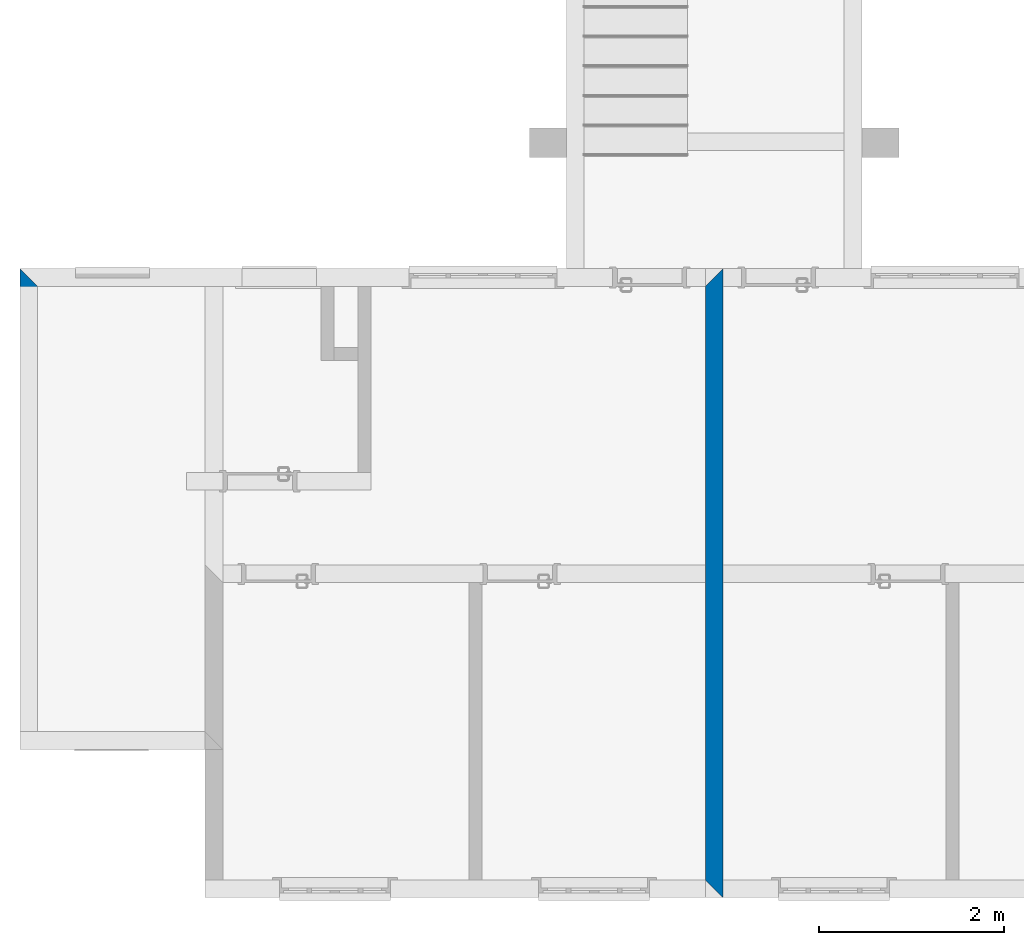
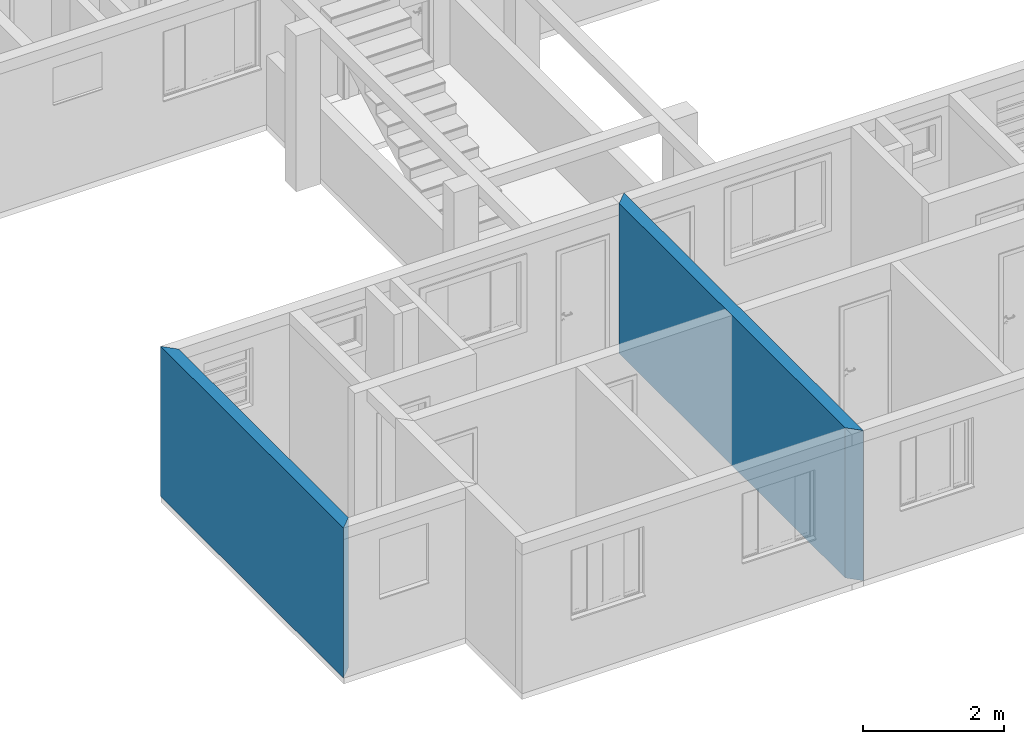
# One storey, part 9 of 47: 2 walls.
"""IFC2X3 building model written with IfcOpenShell, lengths in millimetres."""

from ifc_helpers import new_model, entity, si_unit, converted_unit, derived_unit, money_unit, direction, frame, origin_with_axes, place, context, subcontext, project, spatial, polyline, outline, extrude, material, layer, layer_set, layer_usage, type_object, element, save


model = new_model("IFC2X3")

# Units and contexts
model_context = context("Model", 3, precision=0.01, world=origin_with_axes(), true_north=direction((0.0, 1.0)))
body_context = subcontext(model_context, "Body", "Model", "MODEL_VIEW")
ifc_project = project(units=[si_unit("LENGTHUNIT", "METRE", prefix="MILLI"), si_unit("AREAUNIT", "SQUARE_METRE"), si_unit("VOLUMEUNIT", "CUBIC_METRE"), converted_unit("PLANEANGLEUNIT", "DEGREE", entity("IfcPlaneAngleMeasure", 0.0174532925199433), si_unit("PLANEANGLEUNIT", "RADIAN"), dimensions=[0, 0, 0, 0, 0, 0, 0]), money_unit("USD"), converted_unit("TIMEUNIT", "Year", entity("IfcTimeMeasure", 31557600.0), si_unit("TIMEUNIT", "SECOND"), dimensions=[0, 0, 1, 0, 0, 0, 0]), si_unit("MASSUNIT", "GRAM", prefix="KILO"), si_unit("THERMODYNAMICTEMPERATUREUNIT", "DEGREE_CELSIUS"), si_unit("LUMINOUSINTENSITYUNIT", "LUMEN"), si_unit("ENERGYUNIT", "JOULE", prefix="MEGA"), derived_unit("THERMALCONDUCTANCEUNIT", [(si_unit("POWERUNIT", "WATT"), 1), (si_unit("LENGTHUNIT", "METRE"), -1), (si_unit("THERMODYNAMICTEMPERATUREUNIT", "KELVIN"), -1)]), derived_unit("SPECIFICHEATCAPACITYUNIT", [(si_unit("ENERGYUNIT", "JOULE"), 1), (si_unit("MASSUNIT", "GRAM", prefix="KILO"), -1), (si_unit("THERMODYNAMICTEMPERATUREUNIT", "KELVIN"), -1)]), derived_unit("MASSDENSITYUNIT", [(si_unit("MASSUNIT", "GRAM", prefix="KILO"), 1), (si_unit("VOLUMEUNIT", "CUBIC_METRE"), -1)])], contexts=[model_context])

# Site, building, storey
site_placement = place(None, origin_with_axes())
site = spatial("IfcSite", under=ifc_project, at=site_placement, Name="Local", CompositionType="ELEMENT")
building_placement = place(site_placement, origin_with_axes())
building = spatial("IfcBuilding", under=site, at=building_placement, Name="Construção", CompositionType="ELEMENT")
storey_placement = place(building_placement, origin_with_axes())
storey = spatial("IfcBuildingStorey", under=building, at=storey_placement, Name="Pavimento Tipo", CompositionType="ELEMENT", Elevation=0.0)

# Walls
ifc_material = material(Name="Concreto - Estrutural")
ifc_layer = layer(ifc_material, 190.0, ventilated="UNKNOWN")
ifc_layer_set = layer_set([ifc_layer], Name="Concreto - Estrutural 190")
ifc_layer_usage_1 = layer_usage(ifc_layer_set, "AXIS2", "NEGATIVE", 0.0)
wall_type = type_object("IfcWallType", Name="Concreto - Estrutural 190", PredefinedType="NOTDEFINED")
wall_1_placement = place(storey_placement, frame((-6547.433002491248, -3.018582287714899, 0.0), z_axis=(0.0, 0.0, 1.0), x_axis=(0.0, 1.0, 0.0)))
element("IfcWallStandardCase", 1, at=wall_1_placement, inside=storey, type_object=wall_type, material=ifc_layer_usage_1, Name="Apartamento 3 - Parede-088", context=body_context, shape_type="SweptSolid", body=[
    extrude(outline(polyline([(190.0000000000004, -190.0000000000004), (5000.000000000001, -190.0000000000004), (5190.000000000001, 0.0), (0.0, 0.0), (190.0000000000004, -190.0000000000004)])), origin_with_axes(), (0.0, 0.0, 1.0), 2600.0),
])
ifc_layer_usage_2 = layer_usage(ifc_layer_set, "AXIS2", "NEGATIVE", 0.0)
wall_2_placement = place(storey_placement, frame((852.56699750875, -1603.018582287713, 0.0), z_axis=(0.0, 0.0, 1.0), x_axis=(0.0, 1.0, 0.0)))
element("IfcWallStandardCase", 2, at=wall_2_placement, inside=storey, type_object=wall_type, material=ifc_layer_usage_2, Name="Apartamentos 3 e 4 - Parede-002", context=body_context, shape_type="SweptSolid", body=[
    extrude(outline(polyline([(0.0, -189.9999999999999), (6789.999999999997, -189.9999999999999), (6599.999999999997, 0.0), (189.9999999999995, 0.0), (0.0, -189.9999999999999)])), origin_with_axes(), (0.0, 0.0, 1.0), 2600.000000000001),
])

save(model, "model.ifc")
